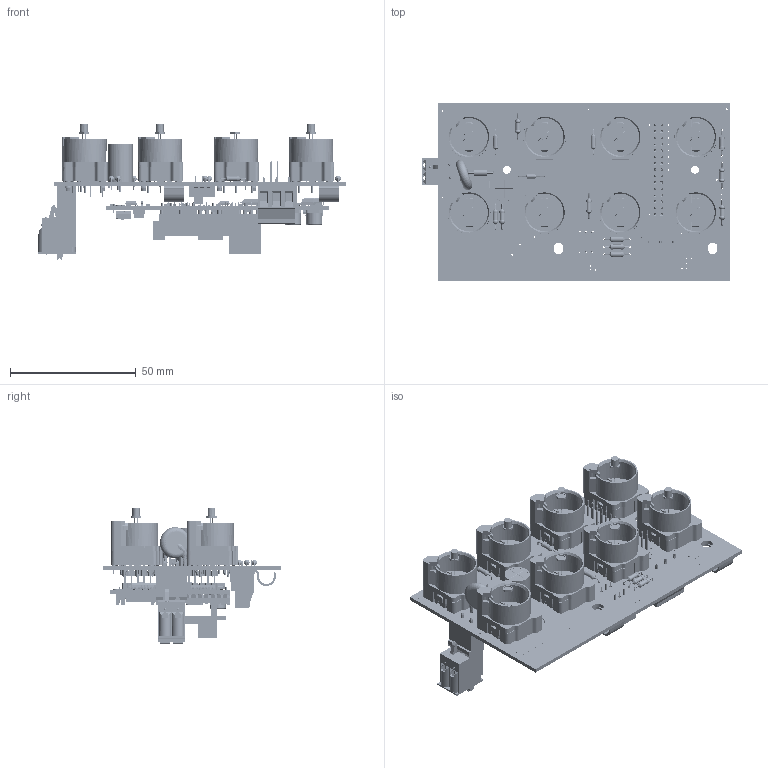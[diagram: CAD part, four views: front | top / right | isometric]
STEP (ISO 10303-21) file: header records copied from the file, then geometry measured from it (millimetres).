
FILE_DESCRIPTION(/* description */ (''),/* implementation_level */ '2;1');
FILE_NAME(/* name */ 'H:\KE\Axel\Bussysteme\DP_BTK\DP_BTK30_01.stp',/* time_stamp */ '2020-01-09T15:04:24+01:00',/* author */ ('ahoffmann'),/* organization */ (''),/* preprocessor_version */ 'ST-DEVELOPER v17.2',/* originating_system */ 'Autodesk Inventor 2019',/* authorisation */ '');
FILE_SCHEMA (('AUTOMOTIVE_DESIGN { 1 0 10303 214 3 1 1 }'));
Products named in the file (1): DP_BTK30_01
Bounding box: 122.69 x 70.7 x 53.92 mm (x, y, z)
Volume: 58518 mm3; surface area: 72193.7 mm2
Topology: 23 solids, 166 shells, 18923 faces, 51446 edges, 32985 vertices
Faces by surface type: plane 13324, cylinder 4194, sphere 703, cone 377, bspline 179, torus 146
Full cylindrical faces by diameter (mm): 0.299 x2, 0.3 x3, 0.4 x23, 0.434 x1, 0.457 x2, 0.479 x1, 0.495 x1, 0.5 x253, 0.55 x4, 0.57 x8, 0.6 x82, 0.7 x34, 0.8 x8, 0.813 x68, 0.9 x30, 1 x43, 1.016 x40, 1.118 x2, 1.2 x32, 1.3 x6, 1.4 x2, 1.422 x16, 1.5 x1, 1.509 x8, 1.68 x32, 1.7 x64, 1.8 x2, 1.802 x1, 1.9 x84, 2.2 x52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
Entity records: 630577 total; most frequent: CARTESIAN_POINT 137289, ORIENTED_EDGE 102692, DIRECTION 98486, EDGE_CURVE 51346, LINE 39566, VECTOR 39566, VERTEX_POINT 33003, AXIS2_PLACEMENT_3D 29460
